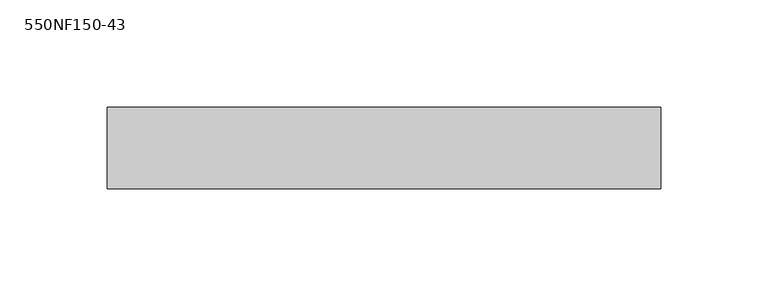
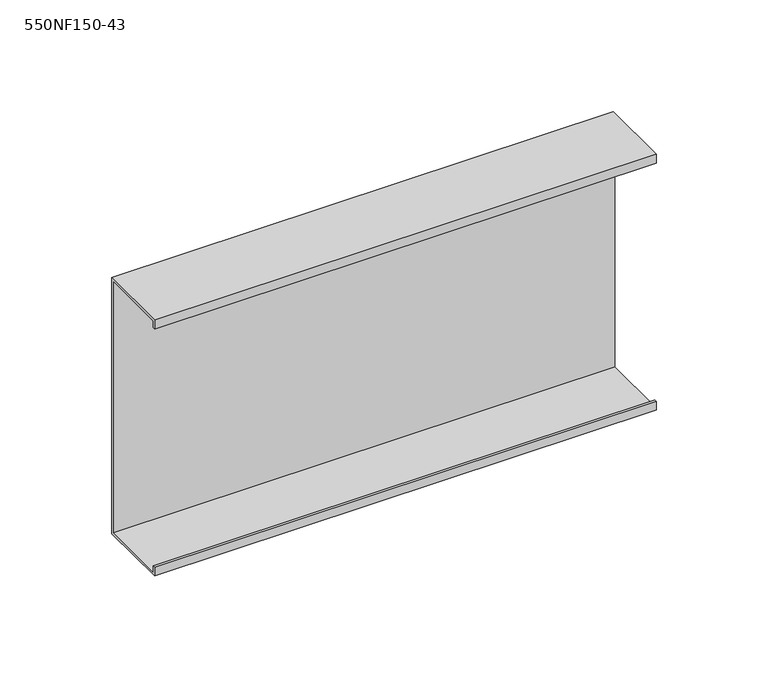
"""IFC4 building model written with IfcOpenShell, lengths in millimetres: beam geometry, BIMSF-SSMA-S : 550NF150-43."""

from ifc_helpers import new_model, si_unit, frame, origin, place, context, project, spatial, polyline, outline, extrude, source, transform, mapped, element, save


def beam_550nf150_43_b33204f9(model_context):
    return source(origin(), model_context, "Body", "SweptSolid", [
        extrude(outline(polyline([(19.05, 69.85), (19.05, -69.85), (-19.05, -69.85), (-19.05, -65.0748), (-17.9003158, -65.0748), (-17.9003158, -68.7003158), (17.9003158, -68.7003158), (17.9003158, 68.7003158), (-17.9003158, 68.7003158), (-17.9003158, 65.0748), (-19.05, 65.0748), (-19.05, 69.85), (19.05, 69.85)])), frame((-129.38125, 0.0, 0.0), z_axis=(1.0, 0.0, 0.0), x_axis=(0.0, 1.0, 0.0)), (0.0, 0.0, 1.0), 258.7625),
    ])


if __name__ == "__main__":
    model = new_model("IFC4")
    model_context = context("Model", 3, world=origin())
    ifc_project = project(units=[si_unit("LENGTHUNIT", "METRE", prefix="MILLI")], contexts=[model_context])
    site = spatial("IfcSite", under=ifc_project)
    building = spatial("IfcBuilding", under=site)
    placement = place(None, origin())
    beam_550nf150_43_shape = beam_550nf150_43_b33204f9(model_context)
    element("IfcBeam", 1, ObjectType="BIMSF-SSMA-S : 550NF150-43", at=placement, inside=building, context=model_context, shape_type="MappedRepresentation", body=[
        mapped(beam_550nf150_43_shape, transform((0.0, 0.0, 0.0), x_axis=(1.0, 0.0, 0.0), y_axis=(0.0, 1.0, 0.0), z_axis=(0.0, 0.0, 1.0))),
    ])
    save(model, "model.ifc")
